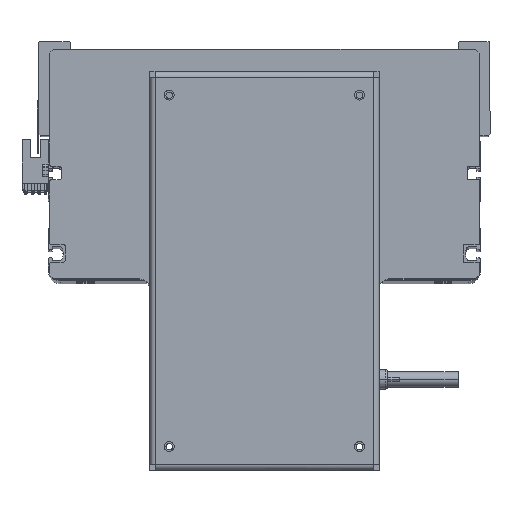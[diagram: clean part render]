
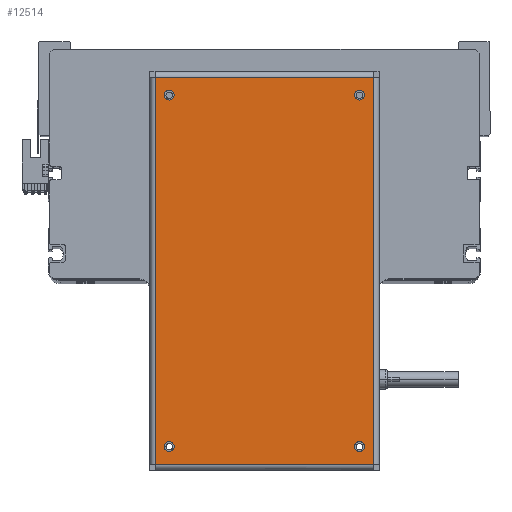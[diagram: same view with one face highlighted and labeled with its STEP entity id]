
A CAD part, top view. The second image highlights one B-rep face of the part: STEP entity #12514.
In plain terms, the highlighted planar face has unit normal (0, 0, 1).
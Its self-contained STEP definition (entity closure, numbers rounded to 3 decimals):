
#224 = CARTESIAN_POINT ( 'NONE',  ( -89.55, 48.5, 0. ) ) ;
#225 = EDGE_CURVE ( 'NONE', #13321, #22015, #18670, .T. ) ;
#397 = ORIENTED_EDGE ( 'NONE', *, *, #20647, .F. ) ;
#559 = CARTESIAN_POINT ( 'NONE',  ( -98.75, -55.6, 0. ) ) ;
#743 = DIRECTION ( 'NONE',  ( 0., 0., -1. ) ) ;
#1678 = CARTESIAN_POINT ( 'NONE',  ( 92.05, 48.5, 0. ) ) ;
#1690 = CARTESIAN_POINT ( 'NONE',  ( -98.65, -55.6, 0. ) ) ;
#1742 = VERTEX_POINT ( 'NONE', #25681 ) ;
#1790 = FACE_OUTER_BOUND ( 'NONE', #25341, .T. ) ;
#2841 = VERTEX_POINT ( 'NONE', #31585 ) ;
#2957 = VECTOR ( 'NONE', #11401, 1000. ) ;
#3000 = VERTEX_POINT ( 'NONE', #38169 ) ;
#3248 = CARTESIAN_POINT ( 'NONE',  ( -87.05, -48.5, 0. ) ) ;
#3329 = ORIENTED_EDGE ( 'NONE', *, *, #19095, .F. ) ;
#3484 = DIRECTION ( 'NONE',  ( 0., 0., 1. ) ) ;
#3696 = DIRECTION ( 'NONE',  ( 0., 0., 1. ) ) ;
#3834 = DIRECTION ( 'NONE',  ( 1., 0., 0. ) ) ;
#4352 = AXIS2_PLACEMENT_3D ( 'NONE', #224, #31213, #37427 ) ;
#4397 = EDGE_LOOP ( 'NONE', ( #3329, #28535 ) ) ;
#5698 = DIRECTION ( 'NONE',  ( 0., 0., 1. ) ) ;
#6794 = LINE ( 'NONE', #559, #7762 ) ;
#6983 = CARTESIAN_POINT ( 'NONE',  ( 98.75, 58.5, 0. ) ) ;
#7137 = DIRECTION ( 'NONE',  ( 0., 0., 1. ) ) ;
#7414 = CARTESIAN_POINT ( 'NONE',  ( 89.55, 48.5, 0. ) ) ;
#7619 = FACE_BOUND ( 'NONE', #9709, .T. ) ;
#7734 = AXIS2_PLACEMENT_3D ( 'NONE', #7414, #7137, #25803 ) ;
#7762 = VECTOR ( 'NONE', #18805, 1000. ) ;
#7931 = EDGE_CURVE ( 'NONE', #22015, #13321, #22520, .T. ) ;
#9557 = EDGE_LOOP ( 'NONE', ( #16238, #29870 ) ) ;
#9709 = EDGE_LOOP ( 'NONE', ( #25519, #18348 ) ) ;
#9855 = CARTESIAN_POINT ( 'NONE',  ( -89.55, -48.5, 0. ) ) ;
#10535 = FACE_BOUND ( 'NONE', #21054, .T. ) ;
#10768 = EDGE_CURVE ( 'NONE', #2841, #12655, #38255, .T. ) ;
#10890 = EDGE_CURVE ( 'NONE', #31285, #11564, #6794, .T. ) ;
#11401 = DIRECTION ( 'NONE',  ( 0., -1., 0. ) ) ;
#11542 = EDGE_CURVE ( 'NONE', #11564, #3000, #40140, .T. ) ;
#11564 = VERTEX_POINT ( 'NONE', #28740 ) ;
#11799 = CARTESIAN_POINT ( 'NONE',  ( 89.55, -48.5, 0. ) ) ;
#12514 = ADVANCED_FACE ( 'NONE', ( #7619, #24066, #12939, #10535, #1790 ), #37946, .F. ) ;
#12655 = VERTEX_POINT ( 'NONE', #32257 ) ;
#12939 = FACE_BOUND ( 'NONE', #4397, .T. ) ;
#13321 = VERTEX_POINT ( 'NONE', #30783 ) ;
#13420 = EDGE_CURVE ( 'NONE', #27092, #16751, #31371, .T. ) ;
#13755 = DIRECTION ( 'NONE',  ( -1., 0., 0. ) ) ;
#13809 = CARTESIAN_POINT ( 'NONE',  ( -98.65, 55.6, 0. ) ) ;
#13816 = ORIENTED_EDGE ( 'NONE', *, *, #10890, .T. ) ;
#14251 = CIRCLE ( 'NONE', #7734, 2.5 ) ;
#15412 = EDGE_CURVE ( 'NONE', #19404, #1742, #23887, .T. ) ;
#16238 = ORIENTED_EDGE ( 'NONE', *, *, #35433, .F. ) ;
#16509 = VERTEX_POINT ( 'NONE', #13809 ) ;
#16751 = VERTEX_POINT ( 'NONE', #20532 ) ;
#17323 = EDGE_CURVE ( 'NONE', #16509, #31285, #37337, .T. ) ;
#17343 = CIRCLE ( 'NONE', #4352, 2.5 ) ;
#17747 = CARTESIAN_POINT ( 'NONE',  ( -98.65, 55.6, 0. ) ) ;
#18009 = DIRECTION ( 'NONE',  ( 1., 0., 0. ) ) ;
#18292 = CIRCLE ( 'NONE', #26337, 2.5 ) ;
#18348 = ORIENTED_EDGE ( 'NONE', *, *, #225, .F. ) ;
#18358 = VECTOR ( 'NONE', #37929, 1000. ) ;
#18670 = CIRCLE ( 'NONE', #31722, 2.5 ) ;
#18805 = DIRECTION ( 'NONE',  ( 1., 0., 0. ) ) ;
#19095 = EDGE_CURVE ( 'NONE', #12655, #2841, #18292, .T. ) ;
#19404 = VERTEX_POINT ( 'NONE', #23512 ) ;
#20532 = CARTESIAN_POINT ( 'NONE',  ( 87.05, 48.5, 0. ) ) ;
#20647 = EDGE_CURVE ( 'NONE', #16751, #27092, #14251, .T. ) ;
#20963 = DIRECTION ( 'NONE',  ( 0., 0., 1. ) ) ;
#21054 = EDGE_LOOP ( 'NONE', ( #33350, #397 ) ) ;
#22015 = VERTEX_POINT ( 'NONE', #3248 ) ;
#22080 = CARTESIAN_POINT ( 'NONE',  ( -89.55, -48.5, 0. ) ) ;
#22084 = CARTESIAN_POINT ( 'NONE',  ( 89.55, 48.5, 0. ) ) ;
#22150 = ORIENTED_EDGE ( 'NONE', *, *, #17323, .T. ) ;
#22520 = CIRCLE ( 'NONE', #24633, 2.5 ) ;
#22670 = VECTOR ( 'NONE', #13755, 1000. ) ;
#23124 = AXIS2_PLACEMENT_3D ( 'NONE', #24381, #20963, #18009 ) ;
#23130 = AXIS2_PLACEMENT_3D ( 'NONE', #11799, #30752, #24647 ) ;
#23512 = CARTESIAN_POINT ( 'NONE',  ( -92.05, 48.5, 0. ) ) ;
#23887 = CIRCLE ( 'NONE', #23124, 2.5 ) ;
#24066 = FACE_BOUND ( 'NONE', #9557, .T. ) ;
#24251 = CARTESIAN_POINT ( 'NONE',  ( 89.55, -48.5, 0. ) ) ;
#24381 = CARTESIAN_POINT ( 'NONE',  ( -89.55, 48.5, 0. ) ) ;
#24633 = AXIS2_PLACEMENT_3D ( 'NONE', #9855, #3484, #37830 ) ;
#24647 = DIRECTION ( 'NONE',  ( 1., 0., 0. ) ) ;
#25341 = EDGE_LOOP ( 'NONE', ( #22150, #13816, #29021, #30340 ) ) ;
#25475 = DIRECTION ( 'NONE',  ( 0., 0., 1. ) ) ;
#25519 = ORIENTED_EDGE ( 'NONE', *, *, #7931, .F. ) ;
#25681 = CARTESIAN_POINT ( 'NONE',  ( -87.05, 48.5, 0. ) ) ;
#25803 = DIRECTION ( 'NONE',  ( 1., 0., 0. ) ) ;
#26337 = AXIS2_PLACEMENT_3D ( 'NONE', #24251, #5698, #27740 ) ;
#27092 = VERTEX_POINT ( 'NONE', #1678 ) ;
#27740 = DIRECTION ( 'NONE',  ( 1., 0., 0. ) ) ;
#27974 = EDGE_CURVE ( 'NONE', #3000, #16509, #34281, .T. ) ;
#28535 = ORIENTED_EDGE ( 'NONE', *, *, #10768, .F. ) ;
#28740 = CARTESIAN_POINT ( 'NONE',  ( 98.65, -55.6, 0. ) ) ;
#29021 = ORIENTED_EDGE ( 'NONE', *, *, #11542, .T. ) ;
#29870 = ORIENTED_EDGE ( 'NONE', *, *, #15412, .F. ) ;
#30340 = ORIENTED_EDGE ( 'NONE', *, *, #27974, .T. ) ;
#30752 = DIRECTION ( 'NONE',  ( 0., 0., 1. ) ) ;
#30783 = CARTESIAN_POINT ( 'NONE',  ( -92.05, -48.5, 0. ) ) ;
#31213 = DIRECTION ( 'NONE',  ( 0., 0., 1. ) ) ;
#31285 = VERTEX_POINT ( 'NONE', #1690 ) ;
#31371 = CIRCLE ( 'NONE', #37605, 2.5 ) ;
#31585 = CARTESIAN_POINT ( 'NONE',  ( 87.05, -48.5, 0. ) ) ;
#31722 = AXIS2_PLACEMENT_3D ( 'NONE', #22080, #25475, #34386 ) ;
#31999 = CARTESIAN_POINT ( 'NONE',  ( 98.65, -55.6, 0. ) ) ;
#32257 = CARTESIAN_POINT ( 'NONE',  ( 92.05, -48.5, 0. ) ) ;
#32573 = CARTESIAN_POINT ( 'NONE',  ( 98.75, 55.6, 0. ) ) ;
#33350 = ORIENTED_EDGE ( 'NONE', *, *, #13420, .F. ) ;
#34281 = LINE ( 'NONE', #32573, #22670 ) ;
#34386 = DIRECTION ( 'NONE',  ( 1., 0., 0. ) ) ;
#34826 = DIRECTION ( 'NONE',  ( -1., 0., 0. ) ) ;
#35433 = EDGE_CURVE ( 'NONE', #1742, #19404, #17343, .T. ) ;
#37337 = LINE ( 'NONE', #17747, #2957 ) ;
#37427 = DIRECTION ( 'NONE',  ( 1., 0., 0. ) ) ;
#37605 = AXIS2_PLACEMENT_3D ( 'NONE', #22084, #3696, #3834 ) ;
#37830 = DIRECTION ( 'NONE',  ( 1., 0., 0. ) ) ;
#37929 = DIRECTION ( 'NONE',  ( 0., 1., 0. ) ) ;
#37946 = PLANE ( 'NONE',  #38589 ) ;
#38169 = CARTESIAN_POINT ( 'NONE',  ( 98.65, 55.6, 0. ) ) ;
#38255 = CIRCLE ( 'NONE', #23130, 2.5 ) ;
#38589 = AXIS2_PLACEMENT_3D ( 'NONE', #6983, #743, #34826 ) ;
#40140 = LINE ( 'NONE', #31999, #18358 ) ;
